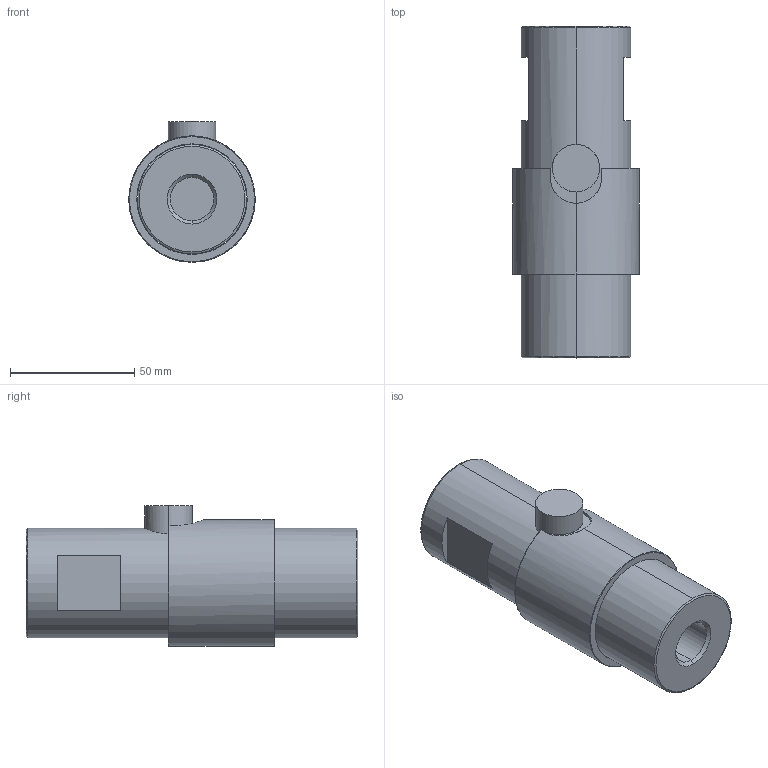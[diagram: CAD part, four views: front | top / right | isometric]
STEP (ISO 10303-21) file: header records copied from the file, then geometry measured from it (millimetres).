
FILE_DESCRIPTION (( 'STEP AP214' ), '1' );
FILE_NAME ('FINAL ASBY SS1670-40K.STEP', '2024-08-12T15:10:23', ( '' ), ( '' ), 'SwSTEP 2.0', 'SolidWorks 2008', '' );
FILE_SCHEMA (( 'AUTOMOTIVE_DESIGN' ));
Length unit declared in the file: inch
Products named in the file (1): FINAL ASBY SS1670-40K
Bounding box: 50.8 x 133.35 x 56.52 mm (x, y, z)
Volume: 203985.5 mm3; surface area: 39557.2 mm2
Topology: 1 solids, 1 shells, 44 faces, 102 edges, 63 vertices
Faces by surface type: plane 17, cylinder 15, cone 12
Entity records: 1460 total; most frequent: CARTESIAN_POINT 410, DIRECTION 225, ORIENTED_EDGE 204, EDGE_CURVE 102, AXIS2_PLACEMENT_3D 88, VERTEX_POINT 63, VECTOR 49, LINE 49
